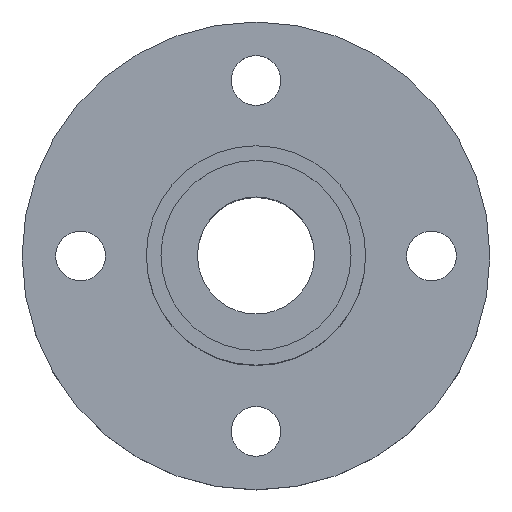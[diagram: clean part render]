
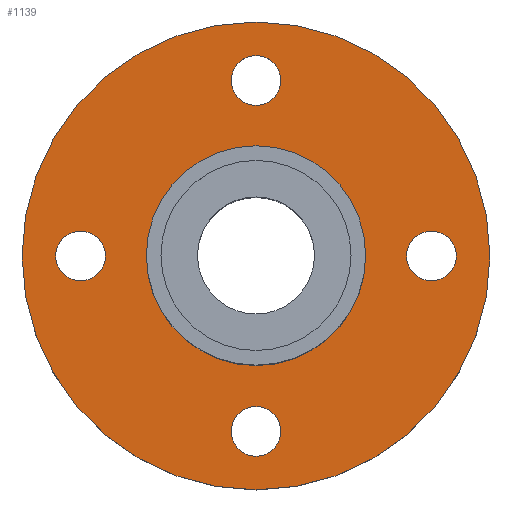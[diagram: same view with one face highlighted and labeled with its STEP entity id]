
A CAD part, top view. The second image highlights one B-rep face of the part: STEP entity #1139.
In plain terms, the highlighted planar face has unit normal (0, 0, 1).
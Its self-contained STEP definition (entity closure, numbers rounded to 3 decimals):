
#51=CARTESIAN_POINT('',(-16.0,-0.1,5.0));
#52=VERTEX_POINT('',#51);
#68=CARTESIAN_POINT('',(16.0,-0.1,5.0));
#69=VERTEX_POINT('',#68);
#76=CARTESIAN_POINT('',(0.0,-0.1,5.0));
#77=DIRECTION('',(0.0,0.0,-1.0));
#78=DIRECTION('',(-1.0,0.0,0.0));
#79=AXIS2_PLACEMENT_3D('',#76,#77,#78);
#80=CIRCLE('',#79,16.0);
#81=EDGE_CURVE('',#69,#52,#80,.T.);
#133=CARTESIAN_POINT('',(-7.5,-0.1,5.));
#134=VERTEX_POINT('',#133);
#143=CARTESIAN_POINT('',(7.5,-0.1,5.0));
#144=VERTEX_POINT('',#143);
#145=CARTESIAN_POINT('',(0.0,-0.1,5.0));
#146=DIRECTION('',(0.0,0.0,-1.0));
#147=DIRECTION('',(-1.0,0.0,0.0));
#148=AXIS2_PLACEMENT_3D('',#145,#146,#147);
#149=CIRCLE('',#148,7.5);
#150=EDGE_CURVE('',#144,#134,#149,.T.);
#345=CARTESIAN_POINT('',(0.0,10.2,5.0));
#346=VERTEX_POINT('',#345);
#362=CARTESIAN_POINT('',(0.,13.6,5.));
#363=VERTEX_POINT('',#362);
#370=CARTESIAN_POINT('',(0.0,11.9,5.));
#371=DIRECTION('',(0.0,0.0,-1.0));
#372=DIRECTION('',(0.0,-1.0,0.0));
#373=AXIS2_PLACEMENT_3D('',#370,#371,#372);
#374=CIRCLE('',#373,1.7);
#375=EDGE_CURVE('',#346,#363,#374,.T.);
#429=CARTESIAN_POINT('',(-10.3,-0.1,5.0));
#430=VERTEX_POINT('',#429);
#446=CARTESIAN_POINT('',(-13.7,-0.1,5.));
#447=VERTEX_POINT('',#446);
#454=CARTESIAN_POINT('',(-12.,-0.1,5.));
#455=DIRECTION('',(0.0,0.0,-1.0));
#456=DIRECTION('',(1.0,0.0,0.0));
#457=AXIS2_PLACEMENT_3D('',#454,#455,#456);
#458=CIRCLE('',#457,1.7);
#459=EDGE_CURVE('',#430,#447,#458,.T.);
#513=CARTESIAN_POINT('',(0.,-10.4,5.0));
#514=VERTEX_POINT('',#513);
#530=CARTESIAN_POINT('',(0.,-13.8,5.));
#531=VERTEX_POINT('',#530);
#538=CARTESIAN_POINT('',(0.,-12.1,5.));
#539=DIRECTION('',(0.0,0.0,-1.0));
#540=DIRECTION('',(0.0,1.0,0.0));
#541=AXIS2_PLACEMENT_3D('',#538,#539,#540);
#542=CIRCLE('',#541,1.7);
#543=EDGE_CURVE('',#514,#531,#542,.T.);
#597=CARTESIAN_POINT('',(10.3,-0.1,5.0));
#598=VERTEX_POINT('',#597);
#614=CARTESIAN_POINT('',(13.7,-0.1,5.));
#615=VERTEX_POINT('',#614);
#622=CARTESIAN_POINT('',(12.,-0.1,5.));
#623=DIRECTION('',(0.0,0.0,-1.0));
#624=DIRECTION('',(-1.0,0.0,0.0));
#625=AXIS2_PLACEMENT_3D('',#622,#623,#624);
#626=CIRCLE('',#625,1.7);
#627=EDGE_CURVE('',#598,#615,#626,.T.);
#638=CARTESIAN_POINT('',(12.,-0.1,5.));
#639=DIRECTION('',(0.0,0.0,-1.0));
#640=DIRECTION('',(-1.0,0.0,0.0));
#641=AXIS2_PLACEMENT_3D('',#638,#639,#640);
#642=CIRCLE('',#641,1.7);
#643=EDGE_CURVE('',#615,#598,#642,.T.);
#700=CARTESIAN_POINT('',(0.,-12.1,5.));
#701=DIRECTION('',(0.0,0.0,-1.0));
#702=DIRECTION('',(0.0,1.0,0.0));
#703=AXIS2_PLACEMENT_3D('',#700,#701,#702);
#704=CIRCLE('',#703,1.7);
#705=EDGE_CURVE('',#531,#514,#704,.T.);
#762=CARTESIAN_POINT('',(-12.,-0.1,5.));
#763=DIRECTION('',(0.0,0.0,-1.0));
#764=DIRECTION('',(1.0,0.0,0.0));
#765=AXIS2_PLACEMENT_3D('',#762,#763,#764);
#766=CIRCLE('',#765,1.7);
#767=EDGE_CURVE('',#447,#430,#766,.T.);
#824=CARTESIAN_POINT('',(0.0,11.9,5.));
#825=DIRECTION('',(0.0,0.0,-1.0));
#826=DIRECTION('',(0.0,-1.0,0.0));
#827=AXIS2_PLACEMENT_3D('',#824,#825,#826);
#828=CIRCLE('',#827,1.7);
#829=EDGE_CURVE('',#363,#346,#828,.T.);
#1056=CARTESIAN_POINT('',(0.0,-0.1,5.0));
#1057=DIRECTION('',(0.0,0.0,-1.0));
#1058=DIRECTION('',(-1.0,0.0,0.0));
#1059=AXIS2_PLACEMENT_3D('',#1056,#1057,#1058);
#1060=CIRCLE('',#1059,7.5);
#1061=EDGE_CURVE('',#134,#144,#1060,.T.);
#1098=CARTESIAN_POINT('',(0.0,-0.1,5.0));
#1099=DIRECTION('',(0.0,0.0,-1.0));
#1100=DIRECTION('',(-1.0,0.0,0.0));
#1101=AXIS2_PLACEMENT_3D('',#1098,#1099,#1100);
#1102=CIRCLE('',#1101,16.0);
#1103=EDGE_CURVE('',#52,#69,#1102,.T.);
#1110=CARTESIAN_POINT('',(0.0,-0.1,5.0));
#1111=DIRECTION('',(0.0,0.0,-1.0));
#1112=DIRECTION('',(-1.0,0.0,0.0));
#1113=AXIS2_PLACEMENT_3D('',#1110,#1111,#1112);
#1114=PLANE('',#1113);
#1115=ORIENTED_EDGE('',*,*,#81,.F.);
#1116=ORIENTED_EDGE('',*,*,#1103,.F.);
#1117=EDGE_LOOP('',(#1115,#1116));
#1118=FACE_OUTER_BOUND('',#1117,.T.);
#1119=ORIENTED_EDGE('',*,*,#627,.T.);
#1120=ORIENTED_EDGE('',*,*,#643,.T.);
#1121=EDGE_LOOP('',(#1119,#1120));
#1122=FACE_BOUND('',#1121,.T.);
#1123=ORIENTED_EDGE('',*,*,#543,.T.);
#1124=ORIENTED_EDGE('',*,*,#705,.T.);
#1125=EDGE_LOOP('',(#1123,#1124));
#1126=FACE_BOUND('',#1125,.T.);
#1127=ORIENTED_EDGE('',*,*,#459,.T.);
#1128=ORIENTED_EDGE('',*,*,#767,.T.);
#1129=EDGE_LOOP('',(#1127,#1128));
#1130=FACE_BOUND('',#1129,.T.);
#1131=ORIENTED_EDGE('',*,*,#375,.T.);
#1132=ORIENTED_EDGE('',*,*,#829,.T.);
#1133=EDGE_LOOP('',(#1131,#1132));
#1134=FACE_BOUND('',#1133,.T.);
#1135=ORIENTED_EDGE('',*,*,#150,.T.);
#1136=ORIENTED_EDGE('',*,*,#1061,.T.);
#1137=EDGE_LOOP('',(#1135,#1136));
#1138=FACE_BOUND('',#1137,.T.);
#1139=ADVANCED_FACE('',(#1118,#1122,#1126,#1130,#1134,#1138),#1114,.F.);
